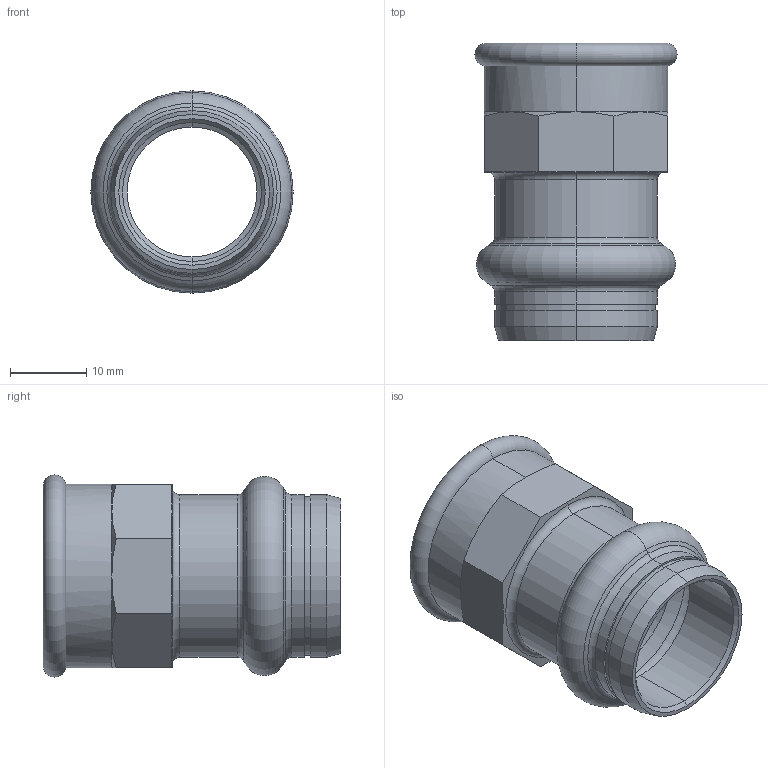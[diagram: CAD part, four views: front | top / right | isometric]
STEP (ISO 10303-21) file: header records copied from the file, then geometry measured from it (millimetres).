
FILE_DESCRIPTION (( 'STEP AP203' ), '1' );
FILE_NAME ('SP4270G Ø18 1-2.STEP', '2017-04-26T08:25:19', ( '' ), ( '' ), 'SwSTEP 2.0', 'SolidWorks 2016', '' );
FILE_SCHEMA (( 'CONFIG_CONTROL_DESIGN' ));
Length unit declared in the file: millimetre
Products named in the file (1): SP4270G Ø18 1-2
Bounding box: 26.5 x 39 x 26.5 mm (x, y, z)
Volume: 5914.1 mm3; surface area: 5965.5 mm2
Topology: 1 solids, 1 shells, 68 faces, 144 edges, 82 vertices
Faces by surface type: cone 24, cylinder 18, plane 14, torus 12
Entity records: 1955 total; most frequent: CARTESIAN_POINT 413, DIRECTION 332, ORIENTED_EDGE 288, AXIS2_PLACEMENT_3D 145, EDGE_CURVE 144, VERTEX_POINT 82, CIRCLE 76, EDGE_LOOP 74
